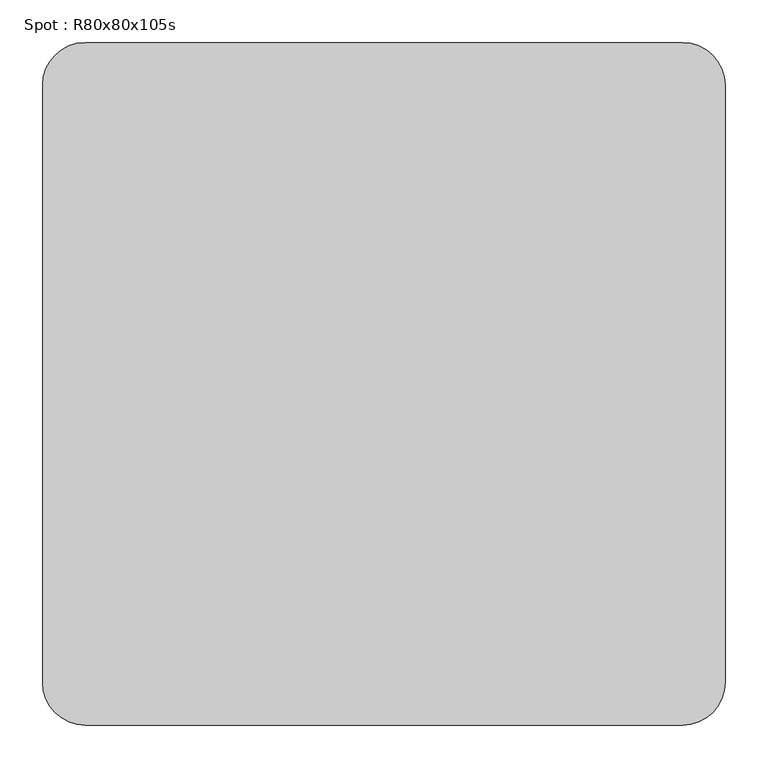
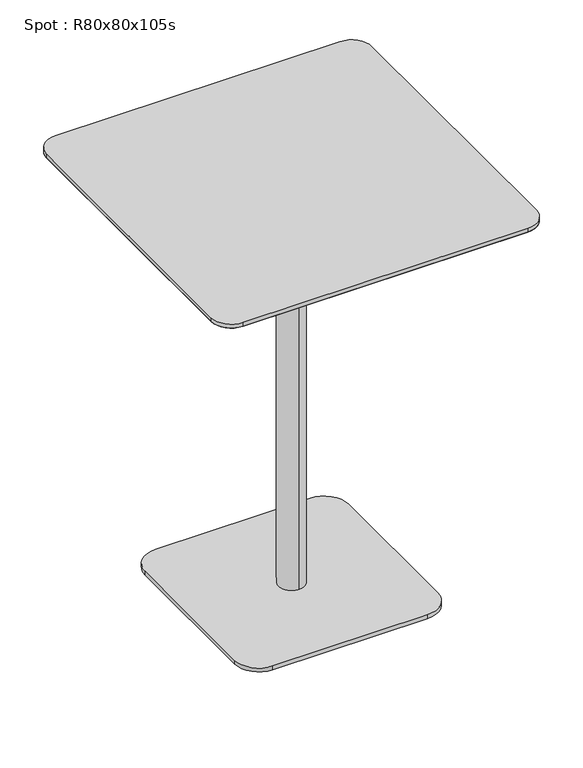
"""IFC4 building model written with IfcOpenShell, lengths in millimetres: furniture geometry, Spot : R80x80x105s."""

from ifc_helpers import new_model, si_unit, point, frame, frame_2d, origin, origin_with_axes, place, context, project, spatial, polyline, circle_curve, trimmed, segment, composite_curve, outline, extrude, source, transform, mapped, element, save
from ifc_brep_helpers import plane_surface, cylinder_surface, revolved_surface, advanced_brep


def spot_r80x80x105s_0859b372(model_context):
    return source(origin(), model_context, "Body", "SolidModel", [
        advanced_brep(
        [(-350.0, -350.0, 1028.0), (-350.0, 350.0, 1028.0), (350.0, 350.0, 1028.0), (350.0, -350.0, 1028.0), (-400.0, -350.0, 1040.0), (-350.0, -400.0, 1040.0), (350.0, -400.0, 1040.0), (400.0, -350.0, 1040.0), (400.0, 350.0, 1040.0), (350.0, 400.0, 1040.0), (-350.0, 400.0, 1040.0), (-400.0, 350.0, 1040.0)],
        [
            (0, 1),
            (1, 2),
            (2, 3),
            (3, 0),
            (4, 5, circle_curve(frame((-350.0, -350.0, 1040.0), z_axis=(0.0, 0.0, 1.0), x_axis=(0.0, -1.0, 0.0)), 50.0)),
            (5, 6),
            (6, 7, circle_curve(frame((350.0, -350.0, 1040.0), z_axis=(0.0, 0.0, 1.0), x_axis=(1.0, 0.0, 0.0)), 50.0)),
            (7, 8),
            (8, 9, circle_curve(frame((350.0, 350.0, 1040.0), z_axis=(0.0, 0.0, 1.0), x_axis=(0.0, 1.0, 0.0)), 50.0)),
            (9, 10),
            (10, 11, circle_curve(frame((-350.0, 350.0, 1040.0), z_axis=(0.0, 0.0, 1.0), x_axis=(-1.0, 0.0, 0.0)), 50.0)),
            (11, 4),
            (4, 0),
            (0, 5),
            (3, 6),
            (3, 7),
            (2, 8),
            (2, 9),
            (1, 10),
            (1, 11),
        ],
        [
            plane_surface(frame((0.0, 0.0, 1028.0), z_axis=(0.0, 0.0, -1.0), x_axis=(-1.0, 0.0, 0.0))),
            plane_surface(frame((0.0, 0.0, 1040.0), z_axis=(0.0, 0.0, 1.0), x_axis=(-1.0, 0.0, 0.0))),
            revolved_surface(polyline([(-350.0, -350.0, 1028.0), (-350.0, -400.0, 1040.0)]), (-350.0, -350.0, 1028.0), (0.0, 0.0, 1.0)),
            plane_surface(frame((0.0, -400.0, 1040.0), z_axis=(0.0, -0.23337295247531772, -0.972387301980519), x_axis=(-1.0, 0.0, 0.0))),
            revolved_surface(polyline([(350.0, -350.0, 1028.0), (400.0, -350.0, 1040.0)]), (350.0, -350.0, 1028.0), (0.0, 0.0, 1.0)),
            plane_surface(frame((400.0, 0.0, 1040.0), z_axis=(0.23337295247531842, 0.0, -0.9723873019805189), x_axis=(0.0, -1.0, 0.0))),
            revolved_surface(polyline([(350.0, 350.0, 1028.0), (350.0, 400.0, 1040.0)]), (350.0, 350.0, 1028.0), (0.0, 0.0, 1.0)),
            plane_surface(frame((0.0, 400.0, 1040.0), z_axis=(0.0, 0.23337295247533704, -0.9723873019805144), x_axis=(1.0, 0.0, 0.0))),
            revolved_surface(polyline([(-350.0, 350.0, 1028.0), (-400.0, 350.0, 1040.0)]), (-350.0, 350.0, 1028.0), (0.0, 0.0, 1.0)),
            plane_surface(frame((-400.0, 0.0, 1040.0), z_axis=(-0.2333729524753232, 0.0, -0.9723873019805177), x_axis=(0.0, 1.0, 0.0))),
        ],
        [
            (0, [[1, 2, 3, 4]]),
            (1, [[5, 6, 7, 8, 9, 10, 11, 12]]),
            (2, [[-5, 13, 14]]),
            (3, [[-6, -14, -4, 15]]),
            (4, [[-7, -15, 16]]),
            (5, [[-8, -16, -3, 17]]),
            (6, [[-9, -17, 18]]),
            (7, [[-10, -18, -2, 19]]),
            (8, [[-11, -19, 20]]),
            (9, [[-12, -20, -1, -13]]),
        ],
    ),
        extrude(outline(composite_curve([segment(trimmed(circle_curve(frame_2d((350.0, 350.0)), 50.0), [point((350.0, 400.0))], [point((400.0, 350.0))], False, "CARTESIAN"), True, "CONTINUOUS"), segment(polyline([(400.0, 350.0), (400.0, -350.0)]), True, "CONTINUOUS"), segment(trimmed(circle_curve(frame_2d((350.0, -350.0)), 50.0), [point((400.0, -350.0))], [point((350.0, -400.0))], False, "CARTESIAN"), True, "CONTINUOUS"), segment(polyline([(350.0, -400.0), (-350.0, -400.0)]), True, "CONTINUOUS"), segment(trimmed(circle_curve(frame_2d((-350.0, -350.0)), 50.0), [point((-350.0, -400.0))], [point((-400.0, -350.0))], False, "CARTESIAN"), True, "CONTINUOUS"), segment(polyline([(-400.0, -350.0), (-400.0, 350.0)]), True, "CONTINUOUS"), segment(trimmed(circle_curve(frame_2d((-350.0, 350.0)), 50.0), [point((-400.0, 350.0))], [point((-350.0, 400.0))], False, "CARTESIAN"), True, "CONTINUOUS"), segment(polyline([(-350.0, 400.0), (350.0, 400.0)]), True, "CONTINUOUS")], self_intersect=False)), frame((0.0, 0.0, 1040.0), z_axis=(0.0, 0.0, 1.0), x_axis=(1.0, 0.0, 0.0)), (0.0, 0.0, 1.0), 10.0),
        extrude(outline(composite_curve([segment(trimmed(circle_curve(frame_2d((190.0, 190.0)), 60.0), [point((190.0, 250.0))], [point((250.0, 190.0))], False, "CARTESIAN"), True, "CONTINUOUS"), segment(polyline([(250.0, 190.0), (250.0, -190.0)]), True, "CONTINUOUS"), segment(trimmed(circle_curve(frame_2d((190.0, -190.0)), 60.0), [point((250.0, -190.0))], [point((190.0, -250.0))], False, "CARTESIAN"), True, "CONTINUOUS"), segment(polyline([(190.0, -250.0), (-190.0, -250.0)]), True, "CONTINUOUS"), segment(trimmed(circle_curve(frame_2d((-190.0, -190.0)), 60.0), [point((-190.0, -250.0))], [point((-250.0, -190.0))], False, "CARTESIAN"), True, "CONTINUOUS"), segment(polyline([(-250.0, -190.0), (-250.0, 190.0)]), True, "CONTINUOUS"), segment(trimmed(circle_curve(frame_2d((-190.0, 190.0)), 60.0), [point((-250.0, 190.0))], [point((-190.0, 250.0))], False, "CARTESIAN"), True, "CONTINUOUS"), segment(polyline([(-190.0, 250.0), (190.0, 250.0)]), True, "CONTINUOUS")], self_intersect=False)), origin_with_axes(), (0.0, 0.0, 1.0), 10.0),
        advanced_brep(
        [(0.0, 32.0, 10.0), (0.0, -32.0, 10.0), (0.0, -32.0, 997.406916), (0.0, 32.0, 997.406916), (0.0, 0.0, 10.0), (0.0, 150.0, 1028.0), (0.0, -150.0, 1028.0), (0.0, 0.0, 1028.0), (0.0, 150.0, 1016.7213673), (0.0, -150.0, 1016.7213673)],
        [
            (0, 1, circle_curve(frame((0.0, 0.0, 10.0), z_axis=(0.0, 0.0, 1.0), x_axis=(0.0, -1.0, 0.0)), 32.0)),
            (1, 2),
            (2, 3, circle_curve(frame((0.0, 0.0, 997.406916), z_axis=(0.0, 0.0, -1.0), x_axis=(0.0, -1.0, 0.0)), 32.0)),
            (3, 0),
            (1, 0, circle_curve(frame((0.0, 0.0, 10.0), z_axis=(0.0, 0.0, 1.0), x_axis=(0.0, -1.0, 0.0)), 32.0)),
            (3, 2, circle_curve(frame((0.0, 0.0, 997.406916), z_axis=(0.0, 0.0, -1.0), x_axis=(0.0, -1.0, 0.0)), 32.0)),
            (4, 1),
            (0, 4),
            (5, 6, circle_curve(frame((0.0, 0.0, 1028.0), z_axis=(0.0, 0.0, 1.0), x_axis=(0.0, -1.0, 0.0)), 150.0)),
            (6, 7),
            (7, 5),
            (6, 5, circle_curve(frame((0.0, 0.0, 1028.0), z_axis=(0.0, 0.0, 1.0), x_axis=(0.0, -1.0, 0.0)), 150.0)),
            (8, 9, circle_curve(frame((0.0, 0.0, 1016.7213673), z_axis=(0.0, 0.0, 1.0), x_axis=(0.0, -1.0, 0.0)), 150.0)),
            (9, 6),
            (5, 8),
            (9, 8, circle_curve(frame((0.0, 0.0, 1016.7213673), z_axis=(0.0, 0.0, 1.0), x_axis=(0.0, -1.0, 0.0)), 150.0)),
            (2, 9),
            (8, 3),
        ],
        [
            cylinder_surface(frame((0.0, 0.0, 1390.0), z_axis=(0.0, 0.0, -1.0), x_axis=(0.0, -1.0, 0.0)), 32.0),
            plane_surface(frame((0.0, 0.0, 10.0), z_axis=(0.0, 0.0, -1.0), x_axis=(0.0, -1.0, 0.0))),
            plane_surface(frame((0.0, 0.0, 1028.0), z_axis=(0.0, 0.0, 1.0), x_axis=(0.0, -1.0, 0.0))),
            cylinder_surface(frame((0.0, 0.0, 1390.0), z_axis=(0.0, 0.0, -1.0), x_axis=(0.0, -1.0, 0.0)), 150.0),
            revolved_surface(polyline([(0.0, -150.0, 1016.7213673), (0.0, -32.0, 997.406916)]), (0.0, 0.0, 1390.0), (0.0, 0.0, -1.0)),
        ],
        [
            (0, [[1, 2, 3, 4]]),
            (0, [[5, -4, 6, -2]]),
            (1, [[7, -1, 8]]),
            (1, [[-8, -5, -7]]),
            (2, [[9, 10, 11]]),
            (2, [[12, -11, -10]]),
            (3, [[13, 14, -9, 15]]),
            (3, [[16, -15, -12, -14]]),
            (4, [[-3, 17, -13, 18]]),
            (4, [[-6, -18, -16, -17]]),
        ],
    ),
        extrude(outline(polyline([(0.0, 0.0), (-20.0, 0.0), (-20.0, 20.0), (0.0, 20.0), (0.0, 0.0)])), origin_with_axes(), (0.0, 0.0, 1.0), 10.0),
    ])


if __name__ == "__main__":
    model = new_model("IFC4")
    model_context = context("Model", 3, world=origin())
    ifc_project = project(units=[si_unit("LENGTHUNIT", "METRE", prefix="MILLI")], contexts=[model_context])
    site = spatial("IfcSite", under=ifc_project)
    building = spatial("IfcBuilding", under=site)
    placement = place(None, origin())
    spot_r80x80x105s_shape = spot_r80x80x105s_0859b372(model_context)
    element("IfcFurniture", 1, ObjectType="Spot : R80x80x105s", at=placement, inside=building, context=model_context, shape_type="MappedRepresentation", body=[
        mapped(spot_r80x80x105s_shape, transform((0.0, 0.0, 0.0), x_axis=(1.0, 0.0, 0.0), y_axis=(0.0, 1.0, 0.0), z_axis=(0.0, 0.0, 1.0))),
    ])
    save(model, "model.ifc")
